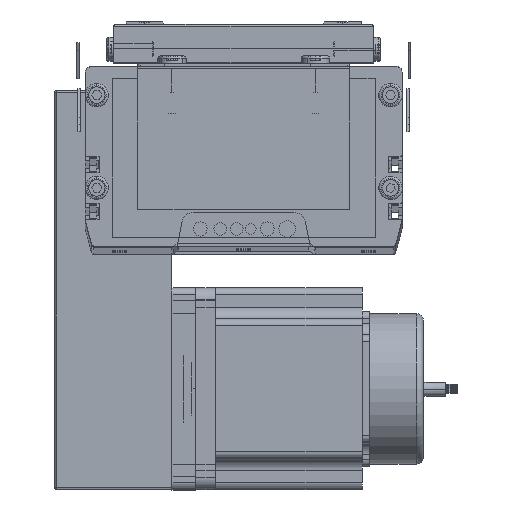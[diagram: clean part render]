
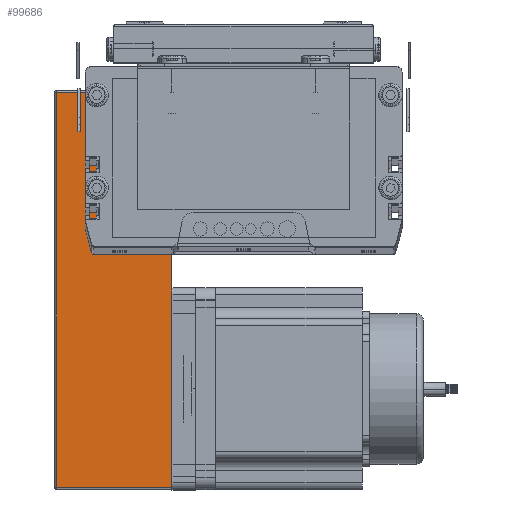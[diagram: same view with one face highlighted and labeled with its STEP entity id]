
A CAD part, top view. The second image highlights one B-rep face of the part: STEP entity #99686.
In plain terms, the highlighted planar face has unit normal (0, 0, 1) as drawn and (0, -1, 0) by its records, which use the part's own axes.
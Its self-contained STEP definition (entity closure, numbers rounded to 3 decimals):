
#4820 = VERTEX_POINT ( 'NONE', #56980 ) ;
#4938 = VERTEX_POINT ( 'NONE', #56971 ) ;
#5017 = VERTEX_POINT ( 'NONE', #94689 ) ;
#9003 = VERTEX_POINT ( 'NONE', #58049 ) ;
#28547 = CARTESIAN_POINT ( 'NONE',  ( 169., 0., 0. ) ) ;
#29325 = EDGE_CURVE ( 'NONE', #29712, #32252, #71464, .T. ) ;
#29712 = VERTEX_POINT ( 'NONE', #72033 ) ;
#32252 = VERTEX_POINT ( 'NONE', #28547 ) ;
#56971 = CARTESIAN_POINT ( 'NONE',  ( 80.482, 0., 0. ) ) ;
#56980 = CARTESIAN_POINT ( 'NONE',  ( 74.998, 0., 0. ) ) ;
#58049 = CARTESIAN_POINT ( 'NONE',  ( 5.418, 0., 0. ) ) ;
#71463 = CARTESIAN_POINT ( 'NONE',  ( 0., 0., 0. ) ) ;
#71464 = LINE ( 'NONE', #71463, #71547 ) ;
#71546 = DIRECTION ( 'NONE',  ( 1., 0., 0. ) ) ;
#71547 = VECTOR ( 'NONE', #71546, 1000. ) ;
#72033 = CARTESIAN_POINT ( 'NONE',  ( 85.9, 0., 0. ) ) ;
#79883 = CARTESIAN_POINT ( 'NONE',  ( 0., 0., 0. ) ) ;
#79915 = LINE ( 'NONE', #79883, #79972 ) ;
#79919 = FACE_OUTER_BOUND ( 'NONE', #99716, .T. ) ;
#79928 = DIRECTION ( 'NONE',  ( 1., 0., 0. ) ) ;
#79929 = VECTOR ( 'NONE', #79928, 1000. ) ;
#79934 = CARTESIAN_POINT ( 'NONE',  ( 0., 0., 0. ) ) ;
#79935 = LINE ( 'NONE', #79934, #79929 ) ;
#79954 = CARTESIAN_POINT ( 'NONE',  ( 1., 0., 0. ) ) ;
#79960 = AXIS2_PLACEMENT_3D ( 'NONE', #80005, #80004, #80003 ) ;
#79971 = DIRECTION ( 'NONE',  ( 1., 0., 0. ) ) ;
#79972 = VECTOR ( 'NONE', #79971, 1000. ) ;
#79978 = PLANE ( 'NONE',  #79960 ) ;
#80003 = DIRECTION ( 'NONE',  ( 0., 0., 1. ) ) ;
#80004 = DIRECTION ( 'NONE',  ( 0., 1., 0. ) ) ;
#80005 = CARTESIAN_POINT ( 'NONE',  ( 0., 0., 50. ) ) ;
#80109 = LINE ( 'NONE', #80188, #80186 ) ;
#80154 = CARTESIAN_POINT ( 'NONE',  ( 169., 0., 49. ) ) ;
#80184 = DIRECTION ( 'NONE',  ( 1., 0., 0. ) ) ;
#80186 = VECTOR ( 'NONE', #80184, 1000. ) ;
#80188 = CARTESIAN_POINT ( 'NONE',  ( 0., 0., 0. ) ) ;
#80223 = DIRECTION ( 'NONE',  ( 1., 0., 0. ) ) ;
#80224 = VECTOR ( 'NONE', #80223, 1000. ) ;
#80232 = CARTESIAN_POINT ( 'NONE',  ( 0., 0., 0. ) ) ;
#80233 = LINE ( 'NONE', #80232, #80224 ) ;
#80242 = DIRECTION ( 'NONE',  ( 1., 0., 0. ) ) ;
#80243 = VECTOR ( 'NONE', #80242, 1000. ) ;
#80245 = CARTESIAN_POINT ( 'NONE',  ( 0., 0., 0. ) ) ;
#80249 = LINE ( 'NONE', #80245, #80243 ) ;
#80252 = DIRECTION ( 'NONE',  ( 0., 0., 1. ) ) ;
#80253 = VECTOR ( 'NONE', #80252, 1000. ) ;
#80255 = CARTESIAN_POINT ( 'NONE',  ( 169., 0., 50. ) ) ;
#80278 = LINE ( 'NONE', #80255, #80253 ) ;
#80296 = DIRECTION ( 'NONE',  ( 0., 0., -1. ) ) ;
#80298 = VECTOR ( 'NONE', #80296, 1000. ) ;
#80299 = CARTESIAN_POINT ( 'NONE',  ( 1., 0., 50. ) ) ;
#80307 = LINE ( 'NONE', #80299, #80298 ) ;
#80310 = DIRECTION ( 'NONE',  ( -1., 0., 0. ) ) ;
#80311 = VECTOR ( 'NONE', #80310, 1000. ) ;
#80313 = CARTESIAN_POINT ( 'NONE',  ( 0., 0., 49. ) ) ;
#80314 = LINE ( 'NONE', #80313, #80311 ) ;
#80386 = CARTESIAN_POINT ( 'NONE',  ( 1., 0., 49. ) ) ;
#94689 = CARTESIAN_POINT ( 'NONE',  ( 10.902, 0., 0. ) ) ;
#99661 = ORIENTED_EDGE ( 'NONE', *, *, #99662, .T. ) ;
#99662 = EDGE_CURVE ( 'NONE', #5017, #4820, #79935, .T. ) ;
#99676 = EDGE_CURVE ( 'NONE', #9003, #5017, #79915, .T. ) ;
#99679 = ORIENTED_EDGE ( 'NONE', *, *, #99676, .T. ) ;
#99684 = VERTEX_POINT ( 'NONE', #79954 ) ;
#99686 = ADVANCED_FACE ( 'NONE', ( #79919 ), #79978, .F. ) ;
#99716 = EDGE_LOOP ( 'NONE', ( #99721, #99679, #99661, #106814, #100186, #100948, #100469, #100949, #101101 ) ) ;
#99719 = EDGE_CURVE ( 'NONE', #99684, #9003, #80109, .T. ) ;
#99721 = ORIENTED_EDGE ( 'NONE', *, *, #99719, .T. ) ;
#100186 = ORIENTED_EDGE ( 'NONE', *, *, #100685, .T. ) ;
#100469 = ORIENTED_EDGE ( 'NONE', *, *, #100471, .T. ) ;
#100471 = EDGE_CURVE ( 'NONE', #32252, #100731, #80278, .T. ) ;
#100472 = EDGE_CURVE ( 'NONE', #4820, #4938, #80249, .T. ) ;
#100685 = EDGE_CURVE ( 'NONE', #4938, #29712, #80233, .T. ) ;
#100731 = VERTEX_POINT ( 'NONE', #80154 ) ;
#100948 = ORIENTED_EDGE ( 'NONE', *, *, #29325, .T. ) ;
#100949 = ORIENTED_EDGE ( 'NONE', *, *, #100994, .T. ) ;
#100994 = EDGE_CURVE ( 'NONE', #100731, #101200, #80314, .T. ) ;
#101009 = EDGE_CURVE ( 'NONE', #101200, #99684, #80307, .T. ) ;
#101101 = ORIENTED_EDGE ( 'NONE', *, *, #101009, .T. ) ;
#101200 = VERTEX_POINT ( 'NONE', #80386 ) ;
#106814 = ORIENTED_EDGE ( 'NONE', *, *, #100472, .T. ) ;
